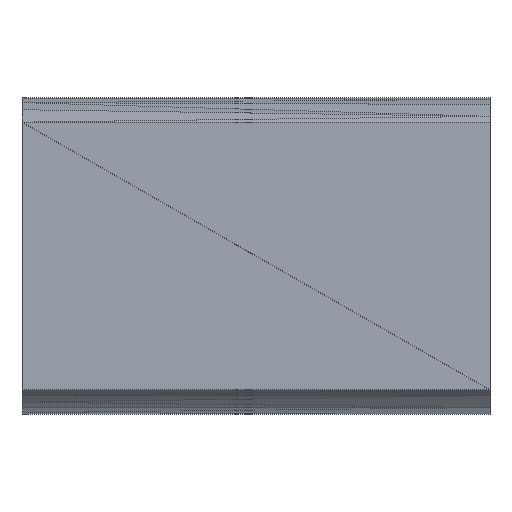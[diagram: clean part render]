
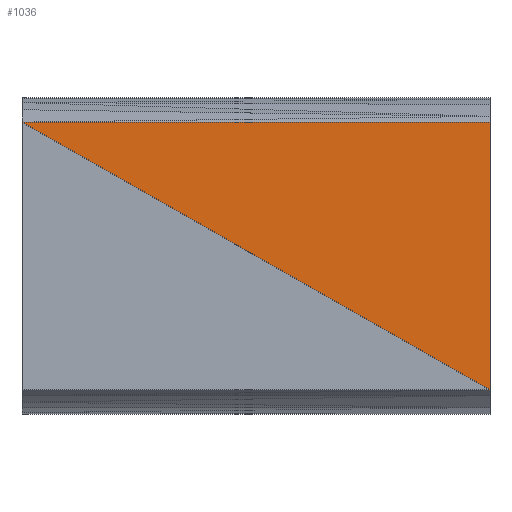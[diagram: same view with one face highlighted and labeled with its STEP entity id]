
A CAD part, front view. The second image highlights one B-rep face of the part: STEP entity #1036.
In plain terms, the highlighted planar face has unit normal (0, -1, 0).
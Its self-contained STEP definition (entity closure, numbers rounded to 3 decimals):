
#192 = VERTEX_POINT('',#193);
#193 = CARTESIAN_POINT('',(77.,11.345,28.621));
#214 = EDGE_CURVE('',#192,#215,#217,.T.);
#215 = VERTEX_POINT('',#216);
#216 = CARTESIAN_POINT('',(77.,11.345,22.419));
#217 = LINE('',#218,#219);
#218 = CARTESIAN_POINT('',(77.,11.345,28.621));
#219 = VECTOR('',#220,1.);
#220 = DIRECTION('',(0.,0.,-1.));
#362 = VERTEX_POINT('',#363);
#363 = CARTESIAN_POINT('',(66.16,11.345,
    28.621));
#1036 = ADVANCED_FACE('',(#1037),#1052,.T.);
#1037 = FACE_BOUND('',#1038,.T.);
#1038 = EDGE_LOOP('',(#1039,#1045,#1046));
#1039 = ORIENTED_EDGE('',*,*,#1040,.T.);
#1040 = EDGE_CURVE('',#362,#215,#1041,.T.);
#1041 = LINE('',#1042,#1043);
#1042 = CARTESIAN_POINT('',(66.16,11.345,
    28.621));
#1043 = VECTOR('',#1044,1.);
#1044 = DIRECTION('',(0.868,0.,-0.497));
#1045 = ORIENTED_EDGE('',*,*,#214,.F.);
#1046 = ORIENTED_EDGE('',*,*,#1047,.T.);
#1047 = EDGE_CURVE('',#192,#362,#1048,.T.);
#1048 = LINE('',#1049,#1050);
#1049 = CARTESIAN_POINT('',(77.,11.345,28.621));
#1050 = VECTOR('',#1051,1.);
#1051 = DIRECTION('',(-1.,0.,0.));
#1052 = PLANE('',#1053);
#1053 = AXIS2_PLACEMENT_3D('',#1054,#1055,#1056);
#1054 = CARTESIAN_POINT('',(72.718,11.345,
    26.658));
#1055 = DIRECTION('',(-0.,-1.,-0.));
#1056 = DIRECTION('',(0.,0.,-1.));
